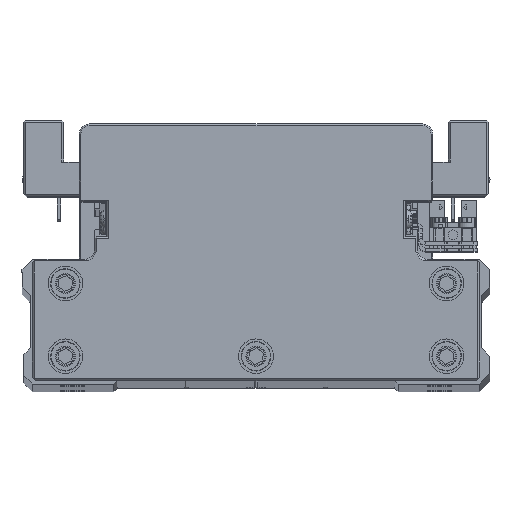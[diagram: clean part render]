
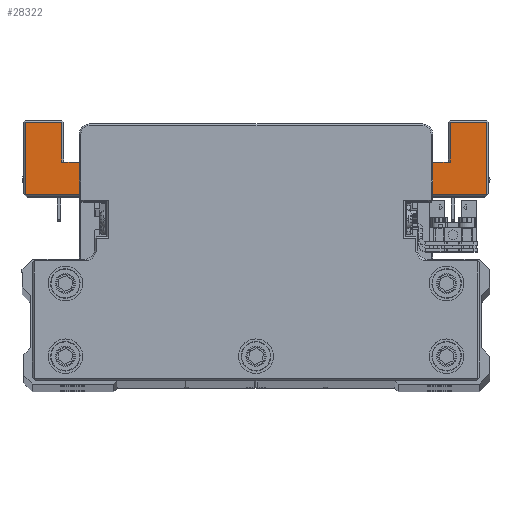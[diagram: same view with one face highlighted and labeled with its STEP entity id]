
A CAD part, top view. The second image highlights one B-rep face of the part: STEP entity #28322.
In plain terms, the highlighted planar face has unit normal (0, 0, 1) as drawn and (0, -1, 0) by its records, which use the part's own axes.
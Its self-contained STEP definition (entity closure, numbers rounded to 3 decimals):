
#29 = LINE ( 'NONE', #12547, #29714 ) ;
#722 = DIRECTION ( 'NONE',  ( -1., 0., 0. ) ) ;
#1537 = VECTOR ( 'NONE', #7572, 1000. ) ;
#1981 = DIRECTION ( 'NONE',  ( 0., 0., -1. ) ) ;
#1994 = EDGE_CURVE ( 'NONE', #11119, #35554, #36484, .T. ) ;
#2122 = VERTEX_POINT ( 'NONE', #18625 ) ;
#3076 = EDGE_CURVE ( 'NONE', #40434, #11119, #38206, .T. ) ;
#3398 = LINE ( 'NONE', #15926, #16710 ) ;
#3562 = EDGE_CURVE ( 'NONE', #4831, #34990, #13891, .T. ) ;
#3581 = VECTOR ( 'NONE', #31807, 1000. ) ;
#3835 = LINE ( 'NONE', #16358, #25925 ) ;
#4102 = DIRECTION ( 'NONE',  ( 0., 0., -1. ) ) ;
#4222 = DIRECTION ( 'NONE',  ( 0., 0., -1. ) ) ;
#4539 = LINE ( 'NONE', #17060, #8670 ) ;
#4831 = VERTEX_POINT ( 'NONE', #36272 ) ;
#4851 = CARTESIAN_POINT ( 'NONE',  ( -56., -45., -64. ) ) ;
#4998 = EDGE_CURVE ( 'NONE', #14282, #28311, #6112, .T. ) ;
#5064 = PLANE ( 'NONE',  #19939 ) ;
#6049 = CARTESIAN_POINT ( 'NONE',  ( 39.868, -45., -42.987 ) ) ;
#6112 = LINE ( 'NONE', #18619, #27220 ) ;
#6258 = EDGE_CURVE ( 'NONE', #28816, #25269, #26889, .T. ) ;
#6381 = VECTOR ( 'NONE', #24277, 1000. ) ;
#6780 = LINE ( 'NONE', #19293, #3581 ) ;
#6996 = ORIENTED_EDGE ( 'NONE', *, *, #3076, .T. ) ;
#7259 = ORIENTED_EDGE ( 'NONE', *, *, #3562, .T. ) ;
#7572 = DIRECTION ( 'NONE',  ( 0., 0., -1. ) ) ;
#8380 = CARTESIAN_POINT ( 'NONE',  ( 66.5, -45., -43.5 ) ) ;
#8670 = VECTOR ( 'NONE', #29565, 1000. ) ;
#9500 = CARTESIAN_POINT ( 'NONE',  ( -39.868, -45., -42.987 ) ) ;
#9794 = LINE ( 'NONE', #22311, #11075 ) ;
#9972 = VERTEX_POINT ( 'NONE', #30490 ) ;
#10097 = CARTESIAN_POINT ( 'NONE',  ( 67., -45., -64. ) ) ;
#10343 = ORIENTED_EDGE ( 'NONE', *, *, #27605, .F. ) ;
#10702 = ORIENTED_EDGE ( 'NONE', *, *, #23200, .T. ) ;
#10737 = VECTOR ( 'NONE', #722, 1000. ) ;
#10757 = DIRECTION ( 'NONE',  ( -1., 0., 0. ) ) ;
#10938 = CIRCLE ( 'NONE', #33883, 1.5 ) ;
#11075 = VECTOR ( 'NONE', #34819, 1000. ) ;
#11119 = VERTEX_POINT ( 'NONE', #22093 ) ;
#11293 = DIRECTION ( 'NONE',  ( -1., 0., 0. ) ) ;
#11758 = CARTESIAN_POINT ( 'NONE',  ( -56., -45., -52.5 ) ) ;
#11832 = VERTEX_POINT ( 'NONE', #33075 ) ;
#12270 = VERTEX_POINT ( 'NONE', #36557 ) ;
#12382 = CARTESIAN_POINT ( 'NONE',  ( 56., -45., -64. ) ) ;
#12547 = CARTESIAN_POINT ( 'NONE',  ( 25.802, -45., -41.111 ) ) ;
#13062 = CARTESIAN_POINT ( 'NONE',  ( 40.066, -45., -43. ) ) ;
#13113 = CARTESIAN_POINT ( 'NONE',  ( -36.217, -45., -42.5 ) ) ;
#13238 = ORIENTED_EDGE ( 'NONE', *, *, #1994, .T. ) ;
#13378 = VECTOR ( 'NONE', #38911, 1000. ) ;
#13629 = EDGE_CURVE ( 'NONE', #30249, #12270, #29, .T. ) ;
#13891 = LINE ( 'NONE', #26398, #13378 ) ;
#14282 = VERTEX_POINT ( 'NONE', #23151 ) ;
#14364 = CARTESIAN_POINT ( 'NONE',  ( 40.066, -45., -41.5 ) ) ;
#14963 = VECTOR ( 'NONE', #20904, 1000. ) ;
#15293 = CARTESIAN_POINT ( 'NONE',  ( -56., -45., -52.5 ) ) ;
#15509 = ORIENTED_EDGE ( 'NONE', *, *, #6258, .F. ) ;
#15730 = ORIENTED_EDGE ( 'NONE', *, *, #36457, .T. ) ;
#15739 = EDGE_CURVE ( 'NONE', #12270, #24571, #9794, .T. ) ;
#15926 = CARTESIAN_POINT ( 'NONE',  ( 40.066, -45., -43. ) ) ;
#15999 = CARTESIAN_POINT ( 'NONE',  ( -66.5, -45., -43. ) ) ;
#16280 = ORIENTED_EDGE ( 'NONE', *, *, #34755, .T. ) ;
#16339 = LINE ( 'NONE', #28840, #10737 ) ;
#16358 = CARTESIAN_POINT ( 'NONE',  ( -39.868, -45., -42.987 ) ) ;
#16710 = VECTOR ( 'NONE', #28422, 1000. ) ;
#17060 = CARTESIAN_POINT ( 'NONE',  ( 56., -45., -64.5 ) ) ;
#17584 = CARTESIAN_POINT ( 'NONE',  ( 0., -45., 0. ) ) ;
#18337 = CARTESIAN_POINT ( 'NONE',  ( 46., -45., -54. ) ) ;
#18457 = VECTOR ( 'NONE', #4102, 1000. ) ;
#18501 = ORIENTED_EDGE ( 'NONE', *, *, #33026, .T. ) ;
#18619 = CARTESIAN_POINT ( 'NONE',  ( -55.5, -45., -64. ) ) ;
#18625 = CARTESIAN_POINT ( 'NONE',  ( 46., -45., -52.5 ) ) ;
#19254 = EDGE_CURVE ( 'NONE', #11832, #40434, #4539, .T. ) ;
#19293 = CARTESIAN_POINT ( 'NONE',  ( -46., -45., -52.5 ) ) ;
#19705 = LINE ( 'NONE', #32219, #18457 ) ;
#19825 = CARTESIAN_POINT ( 'NONE',  ( -40.066, -45., -41.5 ) ) ;
#19939 = AXIS2_PLACEMENT_3D ( 'NONE', #17584, #30087, #1981 ) ;
#20067 = EDGE_CURVE ( 'NONE', #27428, #14282, #19705, .T. ) ;
#20751 = VECTOR ( 'NONE', #11293, 1000. ) ;
#20904 = DIRECTION ( 'NONE',  ( 0., 0., 1. ) ) ;
#21599 = AXIS2_PLACEMENT_3D ( 'NONE', #14364, #26866, #39379 ) ;
#22093 = CARTESIAN_POINT ( 'NONE',  ( 66.5, -45., -64. ) ) ;
#22289 = EDGE_CURVE ( 'NONE', #11832, #2122, #26357, .T. ) ;
#22311 = CARTESIAN_POINT ( 'NONE',  ( -77.786, -45., -42.5 ) ) ;
#22622 = DIRECTION ( 'NONE',  ( 1., 0., 0. ) ) ;
#23151 = CARTESIAN_POINT ( 'NONE',  ( -66.5, -45., -64. ) ) ;
#23158 = LINE ( 'NONE', #35676, #1537 ) ;
#23200 = EDGE_CURVE ( 'NONE', #24965, #30249, #34041, .T. ) ;
#24277 = DIRECTION ( 'NONE',  ( 0., 0., 1. ) ) ;
#24284 = ORIENTED_EDGE ( 'NONE', *, *, #19254, .T. ) ;
#24571 = VERTEX_POINT ( 'NONE', #13113 ) ;
#24965 = VERTEX_POINT ( 'NONE', #13062 ) ;
#25072 = DIRECTION ( 'NONE',  ( -0.991, 0., 0.132 ) ) ;
#25269 = VERTEX_POINT ( 'NONE', #15293 ) ;
#25925 = VECTOR ( 'NONE', #28860, 1000. ) ;
#26357 = LINE ( 'NONE', #38870, #38664 ) ;
#26398 = CARTESIAN_POINT ( 'NONE',  ( 46., -45., -54. ) ) ;
#26866 = DIRECTION ( 'NONE',  ( 0., 1., 0. ) ) ;
#26889 = LINE ( 'NONE', #39407, #20751 ) ;
#27220 = VECTOR ( 'NONE', #31136, 1000. ) ;
#27428 = VERTEX_POINT ( 'NONE', #15999 ) ;
#27605 = EDGE_CURVE ( 'NONE', #2122, #34990, #23158, .T. ) ;
#28311 = VERTEX_POINT ( 'NONE', #4851 ) ;
#28322 = ADVANCED_FACE ( 'NONE', ( #33169 ), #5064, .T. ) ;
#28422 = DIRECTION ( 'NONE',  ( -1., 0., 0. ) ) ;
#28816 = VERTEX_POINT ( 'NONE', #36199 ) ;
#28840 = CARTESIAN_POINT ( 'NONE',  ( -66., -45., -43. ) ) ;
#28860 = DIRECTION ( 'NONE',  ( -0.991, 0., -0.132 ) ) ;
#29565 = DIRECTION ( 'NONE',  ( 0., 0., -1. ) ) ;
#29714 = VECTOR ( 'NONE', #25072, 1000. ) ;
#30087 = DIRECTION ( 'NONE',  ( 0., -1., 0. ) ) ;
#30089 = CARTESIAN_POINT ( 'NONE',  ( 66.5, -45., -43. ) ) ;
#30249 = VERTEX_POINT ( 'NONE', #6049 ) ;
#30490 = CARTESIAN_POINT ( 'NONE',  ( -40.066, -45., -43. ) ) ;
#31126 = EDGE_CURVE ( 'NONE', #40489, #9972, #10938, .T. ) ;
#31136 = DIRECTION ( 'NONE',  ( 1., 0., 0. ) ) ;
#31793 = ORIENTED_EDGE ( 'NONE', *, *, #13629, .T. ) ;
#31807 = DIRECTION ( 'NONE',  ( 0., 0., 1. ) ) ;
#32219 = CARTESIAN_POINT ( 'NONE',  ( -66.5, -45., -64.5 ) ) ;
#32338 = DIRECTION ( 'NONE',  ( 0., 1., 0. ) ) ;
#33026 = EDGE_CURVE ( 'NONE', #28311, #25269, #39870, .T. ) ;
#33075 = CARTESIAN_POINT ( 'NONE',  ( 56., -45., -52.5 ) ) ;
#33169 = FACE_OUTER_BOUND ( 'NONE', #36914, .T. ) ;
#33708 = EDGE_CURVE ( 'NONE', #4831, #28816, #6780, .T. ) ;
#33883 = AXIS2_PLACEMENT_3D ( 'NONE', #19825, #32338, #4222 ) ;
#34041 = CIRCLE ( 'NONE', #21599, 1.5 ) ;
#34226 = ORIENTED_EDGE ( 'NONE', *, *, #22289, .F. ) ;
#34270 = ORIENTED_EDGE ( 'NONE', *, *, #20067, .T. ) ;
#34755 = EDGE_CURVE ( 'NONE', #9972, #27428, #16339, .T. ) ;
#34819 = DIRECTION ( 'NONE',  ( -1., 0., 0. ) ) ;
#34990 = VERTEX_POINT ( 'NONE', #18337 ) ;
#35554 = VERTEX_POINT ( 'NONE', #30089 ) ;
#35676 = CARTESIAN_POINT ( 'NONE',  ( 46., -45., -52.5 ) ) ;
#36199 = CARTESIAN_POINT ( 'NONE',  ( -46., -45., -52.5 ) ) ;
#36272 = CARTESIAN_POINT ( 'NONE',  ( -46., -45., -54. ) ) ;
#36306 = ORIENTED_EDGE ( 'NONE', *, *, #31126, .T. ) ;
#36457 = EDGE_CURVE ( 'NONE', #24571, #40489, #3835, .T. ) ;
#36484 = LINE ( 'NONE', #8380, #14963 ) ;
#36557 = CARTESIAN_POINT ( 'NONE',  ( 36.217, -45., -42.5 ) ) ;
#36914 = EDGE_LOOP ( 'NONE', ( #37566, #15730, #36306, #16280, #34270, #38128, #18501, #15509, #39514, #7259, #10343, #34226, #24284, #6996, #13238, #36922, #10702, #31793 ) ) ;
#36922 = ORIENTED_EDGE ( 'NONE', *, *, #40052, .T. ) ;
#37566 = ORIENTED_EDGE ( 'NONE', *, *, #15739, .T. ) ;
#38128 = ORIENTED_EDGE ( 'NONE', *, *, #4998, .T. ) ;
#38206 = LINE ( 'NONE', #10097, #38246 ) ;
#38246 = VECTOR ( 'NONE', #22622, 1000. ) ;
#38664 = VECTOR ( 'NONE', #10757, 1000. ) ;
#38870 = CARTESIAN_POINT ( 'NONE',  ( 55.5, -45., -52.5 ) ) ;
#38911 = DIRECTION ( 'NONE',  ( 1., 0., 0. ) ) ;
#39379 = DIRECTION ( 'NONE',  ( 0., 0., -1. ) ) ;
#39407 = CARTESIAN_POINT ( 'NONE',  ( -55.5, -45., -52.5 ) ) ;
#39514 = ORIENTED_EDGE ( 'NONE', *, *, #33708, .F. ) ;
#39870 = LINE ( 'NONE', #11758, #6381 ) ;
#40052 = EDGE_CURVE ( 'NONE', #35554, #24965, #3398, .T. ) ;
#40434 = VERTEX_POINT ( 'NONE', #12382 ) ;
#40489 = VERTEX_POINT ( 'NONE', #9500 ) ;
